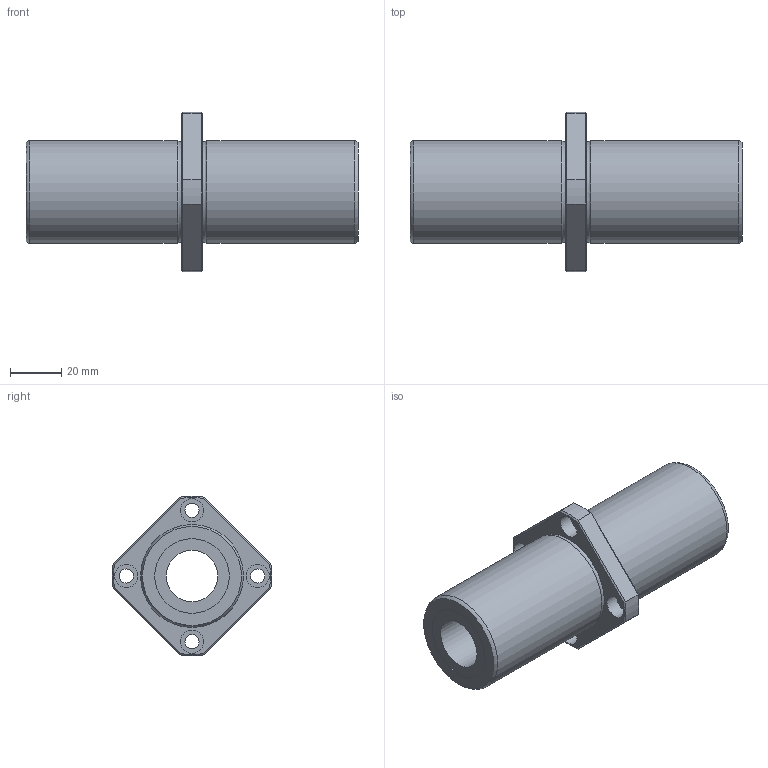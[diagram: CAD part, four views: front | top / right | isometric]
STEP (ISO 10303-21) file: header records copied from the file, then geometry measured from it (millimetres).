
FILE_DESCRIPTION((''),'2;1');
FILE_NAME('D:\製品 (図面)\カタログ用3D\メンテナンスフリー関連\STEP形式\LFLKC-MF\LFLKC20MF.stp','2010-06-01T16:01:21',('Tsuchiya'),(''),'Autodesk Inventor 10','Autodesk Inventor 10','');
FILE_SCHEMA(('AUTOMOTIVE_DESIGN { 1 0 10303 214 1 1 1 1 }'));
Length unit declared in the file: millimetre
Products named in the file (1): LFLKC20MF
Bounding box: 129 x 61.92 x 61.92 mm (x, y, z)
Volume: 128877.7 mm3; surface area: 29478.7 mm2
Topology: 1 solids, 1 shells, 51 faces, 103 edges, 62 vertices
Faces by surface type: plane 22, cylinder 17, cone 8, torus 2, bspline 2
Full cylindrical faces by diameter (mm): 5.5 x4, 9 x4, 20 x1, 29 x2, 40 x2
Entity records: 1413 total; most frequent: CARTESIAN_POINT 372, DIRECTION 216, ORIENTED_EDGE 172, AXIS2_PLACEMENT_3D 96, EDGE_CURVE 86, EDGE_LOOP 86, VERTEX_POINT 62, FACE_OUTER_BOUND 51
